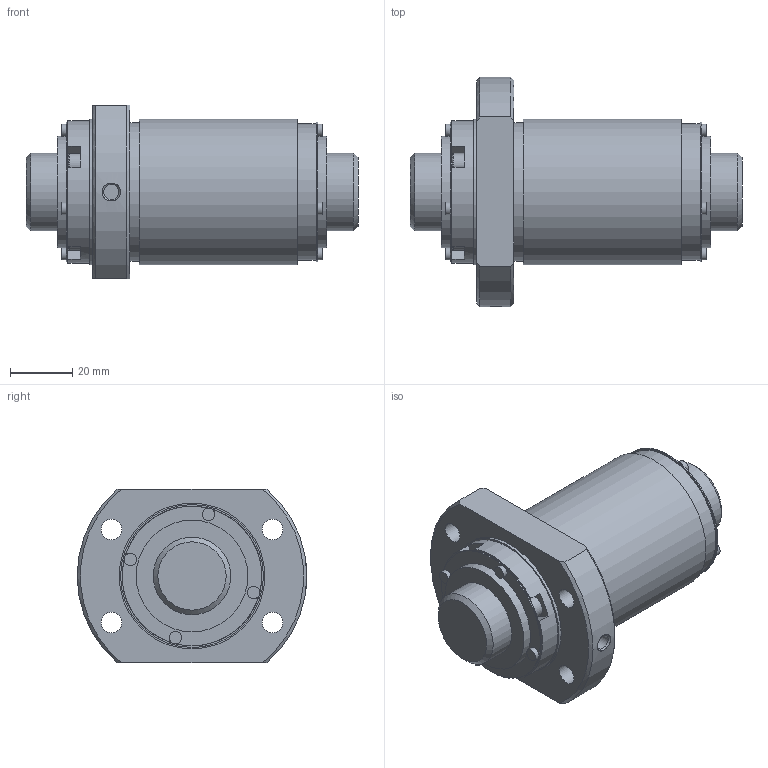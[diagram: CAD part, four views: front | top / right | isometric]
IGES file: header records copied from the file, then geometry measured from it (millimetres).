
Start section: Data from Parasolid IGES Translator 26.0.171, Copyright(c) 2006 Siemens PLM Software. All Rights Reserved.
Global section: file name: BLK2525-2.8ZZG1+107LC3_0_1300.igs; native system: By Siemens PLM Incorporated; preprocessor: XPlus GENERIC/IGES 26.0.171; author: Noname; organization: Noname; date: 20250116.070447; units: millimetre
Bounding box: 107 x 74 x 56 mm (x, y, z)
Surface area: 38713.6 mm2 (no closed solid volume)
Topology: 0 solids, 0 shells, 164 faces, 768 edges, 708 vertices
Faces by surface type: extrusion 103, revolution 61
